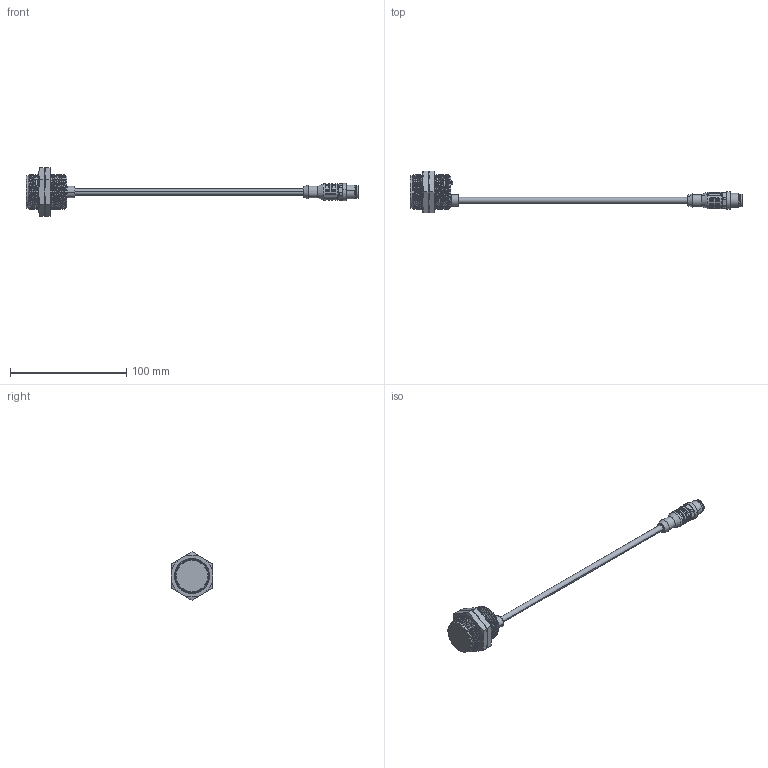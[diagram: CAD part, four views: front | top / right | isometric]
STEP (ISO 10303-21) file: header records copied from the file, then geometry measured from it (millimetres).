
FILE_DESCRIPTION((''),'2;1');
FILE_NAME('6490653411_SW0001','2025-01-14T11:07:14',('Rudolf.Poettker'),(''),'CREO PARAMETRIC BY PTC INC, 2022124','CREO PARAMETRIC BY PTC INC, 2022124','');
FILE_SCHEMA(('AUTOMOTIVE_DESIGN { 1 0 10303 214 1 1 1 1 }'));
Length unit declared in the file: millimetre
Products named in the file (1): 6490653411_SW0001
Bounding box: 285 x 36 x 41.57 mm (x, y, z)
Volume: 37491.6 mm3; surface area: 13298.5 mm2
Topology: 1 solids, 1 shells, 432 faces, 1083 edges, 672 vertices
Faces by surface type: cylinder 124, plane 114, bspline 54, torus 51, cone 45, extrusion 32, sphere 12
Entity records: 35233 total; most frequent: CARTESIAN_POINT 18452, ORIENTED_EDGE 2138, DIRECTION 1776, PRESENTATION_STYLE_ASSIGNMENT 1538, STYLED_ITEM 1106, CURVE_STYLE 1105, EDGE_CURVE 1069, AXIS2_PLACEMENT_3D 687
